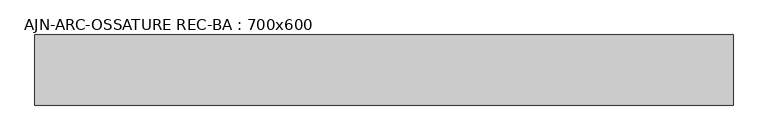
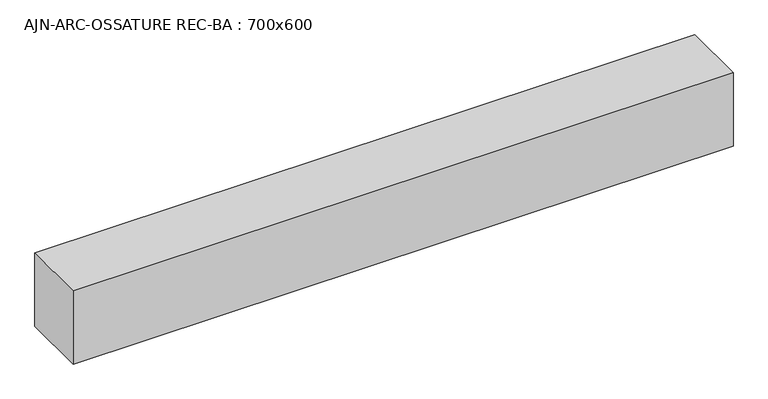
"""IFC4 building model written with IfcOpenShell, lengths in millimetres: beam geometry, AJN-ARC-OSSATURE REC-BA : 700x600."""

from ifc_helpers import new_model, si_unit, frame, origin, place, context, project, spatial, polyline, outline, extrude, source, transform, mapped, element, save


def ajn_arc_ossature_rec_ba_700x600_e143517c(model_context):
    return source(origin(), model_context, "Body", "SweptSolid", [
        extrude(outline(polyline([(2987.2999994, 300.0), (2987.2999994, -300.0), (-2987.2999994, -300.0), (-2987.2999994, 300.0), (2987.2999994, 300.0)])), frame((0.0, 0.0, -350.0), z_axis=(0.0, 0.0, 1.0), x_axis=(1.0, 0.0, 0.0)), (0.0, 0.0, 1.0), 700.0),
    ])


if __name__ == "__main__":
    model = new_model("IFC4")
    model_context = context("Model", 3, world=origin())
    ifc_project = project(units=[si_unit("LENGTHUNIT", "METRE", prefix="MILLI")], contexts=[model_context])
    site = spatial("IfcSite", under=ifc_project)
    building = spatial("IfcBuilding", under=site)
    placement = place(None, origin())
    ajn_arc_ossature_rec_ba_700x600_shape = ajn_arc_ossature_rec_ba_700x600_e143517c(model_context)
    element("IfcBeam", 1, ObjectType="AJN-ARC-OSSATURE REC-BA : 700x600", at=placement, inside=building, context=model_context, shape_type="MappedRepresentation", body=[
        mapped(ajn_arc_ossature_rec_ba_700x600_shape, transform((0.0, 0.0, 0.0), x_axis=(1.0, 0.0, 0.0), y_axis=(0.0, 1.0, 0.0), z_axis=(0.0, 0.0, 1.0))),
    ])
    save(model, "model.ifc")
